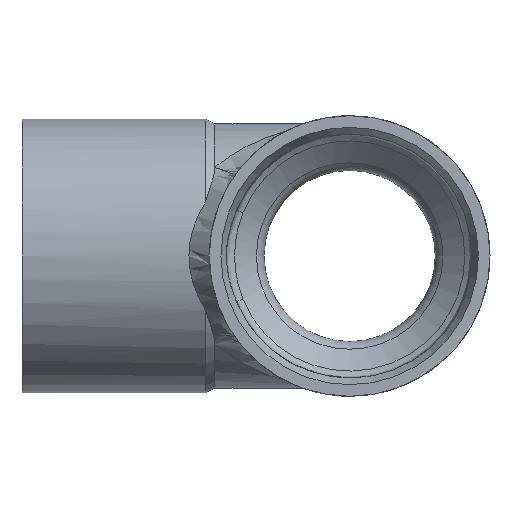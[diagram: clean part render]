
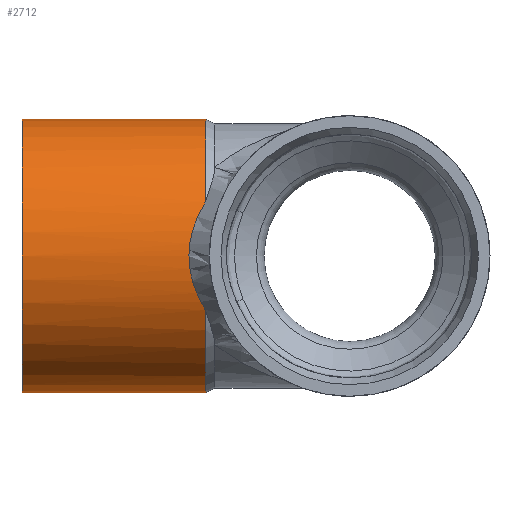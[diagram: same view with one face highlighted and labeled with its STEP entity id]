
A CAD part, left-side view. The second image highlights one B-rep face of the part: STEP entity #2712.
In plain terms, the highlighted cylindrical face has radius 11.775 mm (diameter 23.55 mm), a full revolution.
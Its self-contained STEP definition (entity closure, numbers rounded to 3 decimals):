
#2329=CARTESIAN_POINT('',(-10.816,12.408,4.656));
#2330=VERTEX_POINT('',#2329);
#2340=CARTESIAN_POINT('',(-10.816,12.408,-4.656));
#2341=VERTEX_POINT('',#2340);
#2342=CARTESIAN_POINT('',(-10.816,12.408,4.656));
#2343=CARTESIAN_POINT('',(-10.992,12.666,4.246));
#2344=CARTESIAN_POINT('',(-11.151,12.901,3.813));
#2345=CARTESIAN_POINT('',(-11.41,13.285,2.942));
#2346=CARTESIAN_POINT('',(-11.514,13.441,2.509));
#2347=CARTESIAN_POINT('',(-11.716,13.745,1.367));
#2348=CARTESIAN_POINT('',(-11.779,13.841,0.654));
#2349=CARTESIAN_POINT('',(-11.77,13.827,-0.805));
#2350=CARTESIAN_POINT('',(-11.698,13.717,-1.52));
#2351=CARTESIAN_POINT('',(-11.397,13.265,-3.094));
#2352=CARTESIAN_POINT('',(-11.136,12.876,-3.912));
#2353=CARTESIAN_POINT('',(-10.816,12.408,-4.656));
#2354=B_SPLINE_CURVE_WITH_KNOTS('',3,(#2342,#2343,#2344,#2345,#2346,#2347,#2348,#2349,#2350,#2351,#2352,#2353),.UNSPECIFIED.,.F.,.U.,(4,2,2,2,2,4),(-1.015,-0.86,-0.719,-0.5,-0.28,0.0),.UNSPECIFIED.);
#2355=EDGE_CURVE('',#2330,#2341,#2354,.T.);
#2403=CARTESIAN_POINT('',(10.816,12.408,-4.656));
#2404=VERTEX_POINT('',#2403);
#2414=CARTESIAN_POINT('',(10.816,12.408,4.656));
#2415=VERTEX_POINT('',#2414);
#2416=CARTESIAN_POINT('',(10.816,12.408,-4.656));
#2417=CARTESIAN_POINT('',(10.991,12.665,-4.247));
#2418=CARTESIAN_POINT('',(11.15,12.899,-3.816));
#2419=CARTESIAN_POINT('',(11.409,13.284,-2.945));
#2420=CARTESIAN_POINT('',(11.513,13.44,-2.51));
#2421=CARTESIAN_POINT('',(11.717,13.745,-1.367));
#2422=CARTESIAN_POINT('',(11.779,13.841,-0.654));
#2423=CARTESIAN_POINT('',(11.77,13.827,0.804));
#2424=CARTESIAN_POINT('',(11.698,13.717,1.518));
#2425=CARTESIAN_POINT('',(11.397,13.266,3.092));
#2426=CARTESIAN_POINT('',(11.136,12.877,3.912));
#2427=CARTESIAN_POINT('',(10.816,12.408,4.656));
#2428=B_SPLINE_CURVE_WITH_KNOTS('',3,(#2416,#2417,#2418,#2419,#2420,#2421,#2422,#2423,#2424,#2425,#2426,#2427),.UNSPECIFIED.,.F.,.U.,(4,2,2,2,2,4),(-1.015,-0.861,-0.718,-0.5,-0.281,0.0),.UNSPECIFIED.);
#2429=EDGE_CURVE('',#2404,#2415,#2428,.T.);
#2674=CARTESIAN_POINT('',(0.,12.408,0.0));
#2675=DIRECTION('',(0.0,1.0,0.0));
#2676=DIRECTION('',(-1.0,0.0,0.0));
#2677=AXIS2_PLACEMENT_3D('',#2674,#2675,#2676);
#2678=CIRCLE('',#2677,11.775);
#2679=EDGE_CURVE('',#2404,#2341,#2678,.T.);
#2684=CARTESIAN_POINT('',(0.,20.304,0.0));
#2685=DIRECTION('',(0.,1.0,0.0));
#2686=DIRECTION('',(-1.0,0.0,0.0));
#2687=AXIS2_PLACEMENT_3D('',#2684,#2685,#2686);
#2688=CYLINDRICAL_SURFACE('',#2687,11.775);
#2689=CARTESIAN_POINT('',(-11.775,28.2,0.0));
#2690=VERTEX_POINT('',#2689);
#2691=CARTESIAN_POINT('',(0.,28.2,0.0));
#2692=DIRECTION('',(0.0,1.0,0.0));
#2693=DIRECTION('',(-1.0,0.0,0.0));
#2694=AXIS2_PLACEMENT_3D('',#2691,#2692,#2693);
#2695=CIRCLE('',#2694,11.775);
#2696=EDGE_CURVE('',#2690,#2690,#2695,.T.);
#2697=ORIENTED_EDGE('',*,*,#2696,.F.);
#2698=EDGE_LOOP('',(#2697));
#2699=FACE_OUTER_BOUND('',#2698,.T.);
#2700=ORIENTED_EDGE('',*,*,#2429,.F.);
#2701=ORIENTED_EDGE('',*,*,#2679,.T.);
#2702=ORIENTED_EDGE('',*,*,#2355,.F.);
#2703=CARTESIAN_POINT('',(0.,12.408,0.0));
#2704=DIRECTION('',(0.0,1.0,0.0));
#2705=DIRECTION('',(-1.0,0.0,0.0));
#2706=AXIS2_PLACEMENT_3D('',#2703,#2704,#2705);
#2707=CIRCLE('',#2706,11.775);
#2708=EDGE_CURVE('',#2330,#2415,#2707,.T.);
#2709=ORIENTED_EDGE('',*,*,#2708,.T.);
#2710=EDGE_LOOP('',(#2700,#2701,#2702,#2709));
#2711=FACE_BOUND('',#2710,.T.);
#2712=ADVANCED_FACE('',(#2699,#2711),#2688,.T.);
